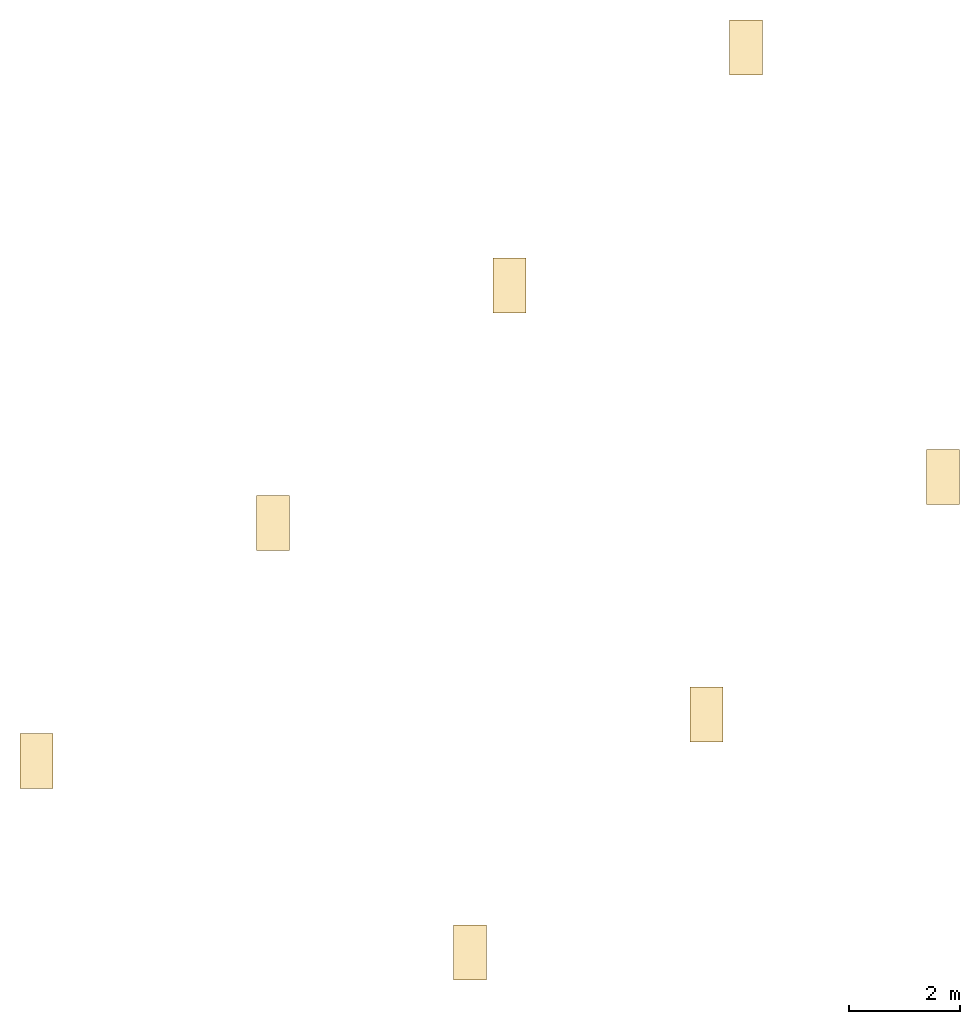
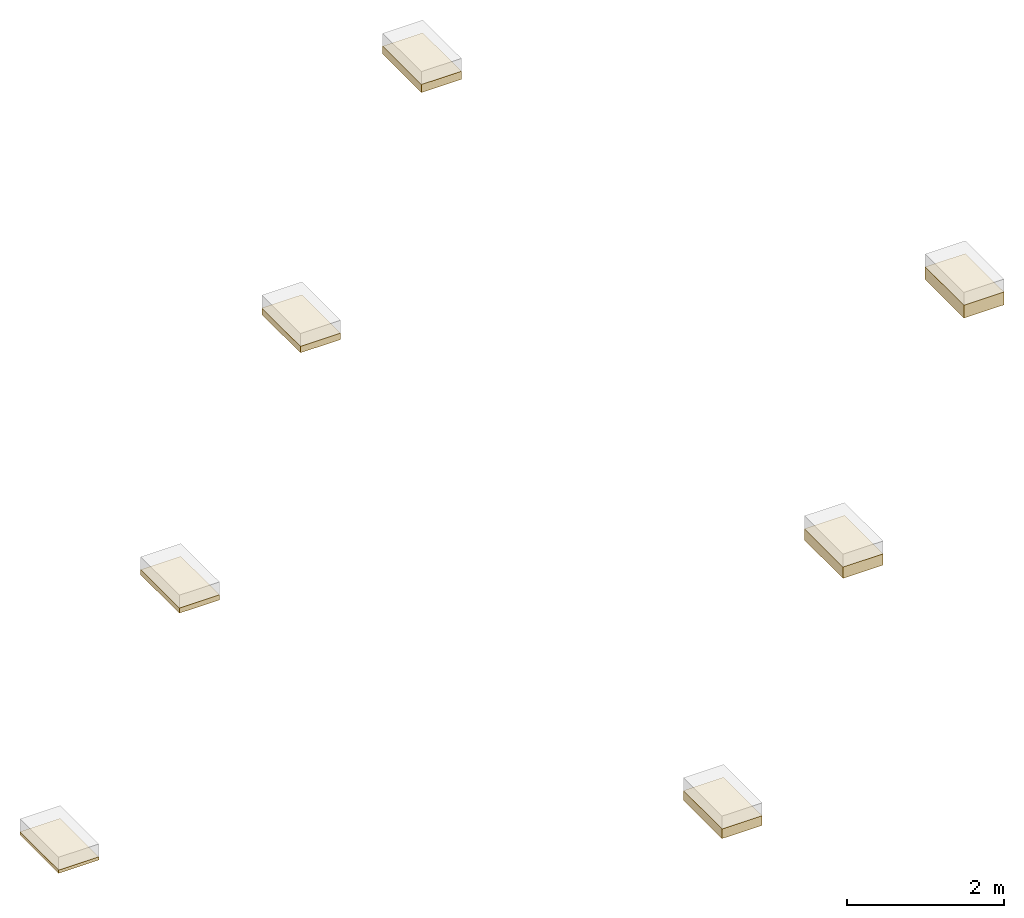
# One storey, part 2 of 2: 7 coverings.
"""IFC2X3 building model written with IfcOpenShell, lengths in millimetres."""

import ifcopenshell
import ifcopenshell.guid

model = None  # the IFC model being written
_history = None  # IfcOwnerHistory: only IFC2X3 demands one
_inside = {}  # id of a spatial element -> (the spatial element, [elements in it])
_under = {}  # id of a project, library or spatial element -> (it, [spatial elements below it])
_declared = {}  # id of a project -> (the project, [libraries it declares])
_typed = {}  # id of a type object -> (the type object, [elements of that type])
_made_of = {}  # id of a material, layer set ... -> (it, [elements and type objects made of it])


def new_model(schema):
    """Start an empty IFC model of exactly this schema.

    Asked for "IFC4X3", IfcOpenShell would pick the latest addendum, in which some entities
    have other attributes; the version numbers below select the first issue.
    IFC2X3 requires an IfcOwnerHistory on every rooted entity: one is made here for all.
    """
    global model, _history
    if schema == "IFC4X3":
        model = ifcopenshell.file(schema_version=(4, 3, 0, 0))
    else:
        model = ifcopenshell.file(schema=schema)
    _inside.clear()
    _under.clear()
    _declared.clear()
    _typed.clear()
    _made_of.clear()
    _history = None
    if model.schema == "IFC2X3":
        org = make("IfcOrganization", Name="unknown")
        user = make(
            "IfcPersonAndOrganization",
            ThePerson=make("IfcPerson", FamilyName="unknown"),
            TheOrganization=org,
        )
        app = make(
            "IfcApplication",
            ApplicationDeveloper=org,
            Version="unknown",
            ApplicationFullName="unknown",
            ApplicationIdentifier="unknown",
        )
        _history = make(
            "IfcOwnerHistory",
            OwningUser=user,
            OwningApplication=app,
            ChangeAction="ADDED",
            CreationDate=0,
        )
    return model


def make(cls, **values):
    """One entity of the class cls with the attributes given. An attribute that is None is left unset."""
    return model.create_entity(
        cls, **{name: value for name, value in values.items() if value is not None}
    )


def entity(cls, *values):
    """Any entity or typed value of the class cls, its attributes in the order of the schema. None: left unset."""
    e = model.create_entity(cls)
    for i, value in enumerate(values):
        if value is not None:
            e[i] = value
    return e


def rooted(cls, **values):
    """An entity with a GlobalId (a new one), such as an element, a storey or a relation."""
    return make(cls, GlobalId=ifcopenshell.guid.new(), OwnerHistory=_history, **values)


def si_unit(unit_type, name, prefix=None):
    """IfcSIUnit, for example si_unit("LENGTHUNIT", "METRE", prefix="MILLI")."""
    return make("IfcSIUnit", UnitType=unit_type, Prefix=prefix, Name=name)


def converted_unit(unit_type, name, factor, base, dimensions=None, offset=None):
    """IfcConversionBasedUnit, such as the inch: factor (a typed value) times the base unit."""
    return make(
        "IfcConversionBasedUnit"
        if offset is None
        else "IfcConversionBasedUnitWithOffset",
        ConversionOffset=offset,
        Dimensions=None
        if dimensions is None
        else entity("IfcDimensionalExponents", *dimensions),
        UnitType=unit_type,
        Name=name,
        ConversionFactor=make(
            "IfcMeasureWithUnit", ValueComponent=factor, UnitComponent=base
        ),
    )


def derived_unit(unit_type, elements):
    """IfcDerivedUnit: a product of units, each with its exponent."""
    return make(
        "IfcDerivedUnit",
        Elements=[
            make("IfcDerivedUnitElement", Unit=unit, Exponent=power)
            for unit, power in elements
        ],
        UnitType=unit_type,
    )


def assignment(units):
    """IfcUnitAssignment: the units of a project."""
    return None if units is None else make("IfcUnitAssignment", Units=units)


def point(xyz):
    """IfcCartesianPoint."""
    return None if xyz is None else make("IfcCartesianPoint", Coordinates=xyz)


def direction(xyz):
    """IfcDirection."""
    return None if xyz is None else make("IfcDirection", DirectionRatios=xyz)


def frame(location, z_axis=None, x_axis=None):
    """IfcAxis2Placement3D, a coordinate frame: its origin and axes. An axis left out is left unset."""
    return make(
        "IfcAxis2Placement3D",
        Location=point(location),
        Axis=direction(z_axis),
        RefDirection=direction(x_axis),
    )


def frame_2d(location, x_axis=None):
    """IfcAxis2Placement2D, a coordinate frame in the plane: its origin and x axis."""
    return make(
        "IfcAxis2Placement2D", Location=point(location), RefDirection=direction(x_axis)
    )


def origin():
    """The frame at (0, 0, 0) with its axes left unset."""
    return frame((0.0, 0.0, 0.0))


def origin_2d_with_axis():
    """The frame at (0, 0) in the plane with the x axis (1, 0) written out."""
    return frame_2d((0.0, 0.0), x_axis=(1.0, 0.0))


def place(relative_to, where):
    """IfcLocalPlacement: puts the frame where relative to a parent placement (None: the world)."""
    return make(
        "IfcLocalPlacement", PlacementRelTo=relative_to, RelativePlacement=where
    )


def context(
    kind, dimensions, precision=None, world=None, true_north=None, identifier=None
):
    """IfcGeometricRepresentationContext, for example the 3D "Model" context."""
    return make(
        "IfcGeometricRepresentationContext",
        ContextIdentifier=identifier,
        ContextType=kind,
        CoordinateSpaceDimension=dimensions,
        Precision=precision,
        WorldCoordinateSystem=world,
        TrueNorth=true_north,
    )


def subcontext(parent, identifier, kind, view, scale=None):
    """IfcGeometricRepresentationSubContext, for example "Body" below "Model"."""
    return make(
        "IfcGeometricRepresentationSubContext",
        ContextIdentifier=identifier,
        ContextType=kind,
        ParentContext=parent,
        TargetScale=scale,
        TargetView=view,
    )


def project(units=None, contexts=None):
    """IfcProject with its units and contexts."""
    return rooted(
        "IfcProject",
        Name="project",
        RepresentationContexts=contexts,
        UnitsInContext=assignment(units),
    )


def spatial(cls, under=None, at=None, **own):
    """A site, building, storey or space (cls), placed at a placement, below another one or the project."""
    s = rooted(cls, ObjectPlacement=at, **own)
    if under is not None:
        _under.setdefault(under.id(), (under, []))[1].append(s)
    return s


def profile(cls, at=None, kind="AREA", **sizes):
    """A parametric profile (cls). Its sizes go by their IFC names, for example OverallWidth=200.0."""
    return make(cls, ProfileType=kind, Position=at, **sizes)


def rectangle(**sizes):
    """IfcRectangleProfileDef."""
    return profile("IfcRectangleProfileDef", **sizes)


def extrude(swept, where, along, depth):
    """IfcExtrudedAreaSolid: the profile swept, set in the frame where, extruded along a direction by depth."""
    return make(
        "IfcExtrudedAreaSolid",
        SweptArea=swept,
        Position=where,
        ExtrudedDirection=direction(along),
        Depth=depth,
    )


def shape(context_of_items, identifier, shape_type, items):
    """IfcShapeRepresentation: the items that make up one representation, for example the "Body"."""
    return make(
        "IfcShapeRepresentation",
        ContextOfItems=context_of_items,
        RepresentationIdentifier=identifier,
        RepresentationType=shape_type,
        Items=items,
    )


def material(Name=None, Category=None):
    """IfcMaterial."""
    return make("IfcMaterial", Name=Name, Category=Category)


def layer(
    of_material, thickness, ventilated=None, Name=None, Category=None, Priority=None
):
    """IfcMaterialLayer: one layer of a wall or slab, of a material (None: an air gap)."""
    return make(
        "IfcMaterialLayer",
        Material=of_material,
        LayerThickness=thickness,
        IsVentilated=ventilated,
        Name=Name,
        Category=Category,
        Priority=Priority,
    )


def layer_set(layers, Name=None):
    """IfcMaterialLayerSet."""
    return make("IfcMaterialLayerSet", MaterialLayers=layers, LayerSetName=Name)


def layer_usage(for_layer_set, set_direction, sense, offset, extent=None):
    """IfcMaterialLayerSetUsage: how a layer set lies in its element."""
    return make(
        "IfcMaterialLayerSetUsage",
        ForLayerSet=for_layer_set,
        LayerSetDirection=set_direction,
        DirectionSense=sense,
        OffsetFromReferenceLine=offset,
        ReferenceExtent=extent,
    )


def made_of(thing, what):
    """Note that an element or type object is made of a material, layer set ...; save() writes the relation."""
    if what is not None:
        _made_of.setdefault(what.id(), (what, []))[1].append(thing)
    return thing


def type_object(cls, material=None, **own):
    """A type object (cls), such as IfcWallType, which elements share."""
    return made_of(rooted(cls, **own), material)


def element(
    cls,
    number,
    at=None,
    inside=None,
    cuts=None,
    type_object=None,
    material=None,
    context=None,
    identifier="Body",
    shape_type=None,
    held_by="IfcProductDefinitionShape",
    body=None,
    shapes=None,
    **own,
):
    """One element of the class cls, such as IfcWall. Its Tag is "e" and its number.

    at: its placement. inside: the storey or other place that contains it. cuts: it is an
    opening in that element (IfcRelVoidsElement). A single representation is given by context,
    identifier, shape_type and body (its items); several are given by shapes. held_by: the class
    of the entity that holds the representations. save() writes the other relations.
    """
    e = rooted(cls, Tag="e%d" % number, ObjectPlacement=at, **own)
    if body is not None:
        shapes = [shape(context, identifier, shape_type, body)]
    if shapes is not None:
        e.Representation = make(held_by, Representations=shapes)
    if inside is not None:
        _inside.setdefault(inside.id(), (inside, []))[1].append(e)
    if cuts is not None:
        rooted(
            "IfcRelVoidsElement", RelatingBuildingElement=cuts, RelatedOpeningElement=e
        )
    if type_object is not None:
        _typed.setdefault(type_object.id(), (type_object, []))[1].append(e)
    return made_of(e, material)


def aggregate(whole, parts):
    """IfcRelAggregates: a whole, such as a stair, and the parts it consists of."""
    return rooted("IfcRelAggregates", RelatingObject=whole, RelatedObjects=parts)


def save(model, path):
    """Write the relations noted so far, then the file.

    IfcRelAggregates (storeys below a building ...), IfcRelContainedInSpatialStructure (elements
    in a storey), IfcRelDefinesByType, IfcRelAssociatesMaterial and IfcRelDeclares: one each for
    every whole, place, type object, material and project.
    """
    for whole, parts in _under.values():
        aggregate(whole, parts)
    for where, things in _inside.values():
        rooted(
            "IfcRelContainedInSpatialStructure",
            RelatedElements=things,
            RelatingStructure=where,
        )
    for kind, things in _typed.values():
        rooted("IfcRelDefinesByType", RelatedObjects=things, RelatingType=kind)
    for what, things in _made_of.values():
        rooted("IfcRelAssociatesMaterial", RelatedObjects=things, RelatingMaterial=what)
    for by, libraries in _declared.values():
        rooted("IfcRelDeclares", RelatingContext=by, RelatedDefinitions=libraries)
    model.write(path)


model = new_model("IFC2X3")

# Units and contexts
model_context = context("Model", 3, precision=0.01, world=origin(), true_north=direction((6.12303176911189e-17, 1.0)))
context_of_model = context(None, 3, precision=0.01, world=origin(), true_north=direction((6.12303176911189e-17, 1.0)))
body_context = subcontext(model_context, "Body", "Model", "MODEL_VIEW")
ifc_project = project(units=[si_unit("LENGTHUNIT", "METRE", prefix="MILLI"), si_unit("AREAUNIT", "SQUARE_METRE"), si_unit("VOLUMEUNIT", "CUBIC_METRE"), converted_unit("PLANEANGLEUNIT", "DEGREE", entity("IfcRatioMeasure", 0.0174532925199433), si_unit("PLANEANGLEUNIT", "RADIAN"), dimensions=[0, 0, 0, 0, 0, 0, 0]), si_unit("MASSUNIT", "GRAM", prefix="KILO"), derived_unit("MASSDENSITYUNIT", [(si_unit("MASSUNIT", "GRAM", prefix="KILO"), 1), (si_unit("LENGTHUNIT", "METRE"), -3)]), derived_unit("MOMENTOFINERTIAUNIT", [(si_unit("LENGTHUNIT", "METRE"), 4)]), si_unit("TIMEUNIT", "SECOND"), si_unit("FREQUENCYUNIT", "HERTZ"), si_unit("THERMODYNAMICTEMPERATUREUNIT", "DEGREE_CELSIUS"), derived_unit("THERMALTRANSMITTANCEUNIT", [(si_unit("MASSUNIT", "GRAM", prefix="KILO"), 1), (si_unit("THERMODYNAMICTEMPERATUREUNIT", "KELVIN"), -1), (si_unit("TIMEUNIT", "SECOND"), -3)]), derived_unit("VOLUMETRICFLOWRATEUNIT", [(si_unit("LENGTHUNIT", "METRE"), 3), (si_unit("TIMEUNIT", "SECOND"), -1)]), si_unit("ELECTRICCURRENTUNIT", "AMPERE"), si_unit("ELECTRICVOLTAGEUNIT", "VOLT"), si_unit("POWERUNIT", "WATT"), si_unit("FORCEUNIT", "NEWTON", prefix="KILO"), si_unit("ILLUMINANCEUNIT", "LUX"), si_unit("LUMINOUSFLUXUNIT", "LUMEN"), si_unit("LUMINOUSINTENSITYUNIT", "CANDELA"), derived_unit("USERDEFINED", [(si_unit("MASSUNIT", "GRAM", prefix="KILO"), -1), (si_unit("LENGTHUNIT", "METRE"), -2), (si_unit("TIMEUNIT", "SECOND"), 3), (si_unit("LUMINOUSFLUXUNIT", "LUMEN"), 1)]), derived_unit("LINEARVELOCITYUNIT", [(si_unit("LENGTHUNIT", "METRE"), 1), (si_unit("TIMEUNIT", "SECOND"), -1)]), si_unit("PRESSUREUNIT", "PASCAL"), derived_unit("USERDEFINED", [(si_unit("LENGTHUNIT", "METRE"), -2), (si_unit("MASSUNIT", "GRAM", prefix="KILO"), 1), (si_unit("TIMEUNIT", "SECOND"), -2)]), derived_unit("LINEARFORCEUNIT", [(si_unit("MASSUNIT", "GRAM", prefix="KILO"), 1), (si_unit("LENGTHUNIT", "METRE"), 1), (si_unit("TIMEUNIT", "SECOND"), -2), (si_unit("LENGTHUNIT", "METRE"), -1)]), derived_unit("PLANARFORCEUNIT", [(si_unit("MASSUNIT", "GRAM", prefix="KILO"), 1), (si_unit("LENGTHUNIT", "METRE"), 1), (si_unit("TIMEUNIT", "SECOND"), -2), (si_unit("LENGTHUNIT", "METRE"), -2)])], contexts=[model_context, context_of_model])

# Site, building, storey
site_placement = place(None, origin())
site = spatial("IfcSite", under=ifc_project, at=site_placement, Name="Default", CompositionType="ELEMENT")
building_placement = place(site_placement, origin())
building = spatial("IfcBuilding", under=site, at=building_placement, CompositionType="ELEMENT")
storey_placement = place(building_placement, frame((0.0, 0.0, 985.0)))
storey = spatial("IfcBuildingStorey", under=building, at=storey_placement, Name="01 eerste verdieping", CompositionType="ELEMENT", Elevation=985.0)

# Coverings
ifc_material_1 = material(Name="Heraklith® I Heratekta - EPS60-SE")
ifc_layer_1 = layer(ifc_material_1, 40.0)
ifc_material_2 = material(Name="Heraklith® | Heratekta - Houtwollaag - 985x590mm")
ifc_layer_2 = layer(ifc_material_2, 10.0)
ifc_layer_set_1 = layer_set([ifc_layer_1, ifc_layer_2], Name="Compound Ceiling:NLRS_45_CEI_Heraklith - Heratekta+ 050x590x985mm")
ifc_layer_usage_1 = layer_usage(ifc_layer_set_1, "AXIS3", "POSITIVE", 0.0)
covering_type_1 = type_object("IfcCoveringType", Name="Compound Ceiling:NLRS_45_CEI_Heraklith - Heratekta+ 050x590x985mm", PredefinedType="CEILING")
covering_1_placement = place(storey_placement, origin())
element("IfcCovering", 1, at=covering_1_placement, inside=storey, type_object=covering_type_1, material=ifc_layer_usage_1, Name="Compound Ceiling:NLRS_45_CEI_Heraklith - Heratekta+ 050x590x985mm", ObjectType="Compound Ceiling:NLRS_45_CEI_Heraklith - Heratekta+ 050x590x985mm", PredefinedType="CEILING", context=body_context, shape_type="SweptSolid", body=[
    extrude(rectangle(XDim=985.0, YDim=590.0, at=origin_2d_with_axis()), frame((295.0, 2027.49999999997, -50.0), z_axis=(0.0, 0.0, 1.0), x_axis=(0.0, 1.0, 0.0)), (0.0, 0.0, 1.0), 50.0),
])
ifc_layer_3 = layer(ifc_material_1, 70.0)
ifc_layer_4 = layer(ifc_material_2, 10.0)
ifc_layer_set_2 = layer_set([ifc_layer_3, ifc_layer_4], Name="Compound Ceiling:NLRS_45_CEI_Heraklith - Heratekta+ 080x590x985mm")
ifc_layer_usage_2 = layer_usage(ifc_layer_set_2, "AXIS3", "POSITIVE", 0.0)
covering_type_2 = type_object("IfcCoveringType", Name="Compound Ceiling:NLRS_45_CEI_Heraklith - Heratekta+ 080x590x985mm", PredefinedType="CEILING")
covering_2_placement = place(storey_placement, origin())
element("IfcCovering", 2, at=covering_2_placement, inside=storey, type_object=covering_type_2, material=ifc_layer_usage_2, Name="Compound Ceiling:NLRS_45_CEI_Heraklith - Heratekta+ 080x590x985mm", ObjectType="Compound Ceiling:NLRS_45_CEI_Heraklith - Heratekta+ 080x590x985mm", PredefinedType="CEILING", context=body_context, shape_type="SweptSolid", body=[
    extrude(rectangle(XDim=984.999999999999, YDim=590.0, at=origin_2d_with_axis()), frame((4537.64068711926, 6300.14068711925, -80.0), z_axis=(0.0, 0.0, 1.0), x_axis=(0.0, 1.0, 0.0)), (0.0, 0.0, 1.0), 80.0),
])
ifc_layer_5 = layer(ifc_material_1, 90.0)
ifc_layer_6 = layer(ifc_material_2, 10.0)
ifc_layer_set_3 = layer_set([ifc_layer_5, ifc_layer_6], Name="Compound Ceiling:NLRS_45_CEI_Heraklith - Heratekta+ 100x590x985mm")
ifc_layer_usage_3 = layer_usage(ifc_layer_set_3, "AXIS3", "POSITIVE", 0.0)
covering_type_3 = type_object("IfcCoveringType", Name="Compound Ceiling:NLRS_45_CEI_Heraklith - Heratekta+ 100x590x985mm", PredefinedType="CEILING")
covering_3_placement = place(storey_placement, origin())
element("IfcCovering", 3, at=covering_3_placement, inside=storey, type_object=covering_type_3, material=ifc_layer_usage_3, Name="Compound Ceiling:NLRS_45_CEI_Heraklith - Heratekta+ 100x590x985mm", ObjectType="Compound Ceiling:NLRS_45_CEI_Heraklith - Heratekta+ 100x590x985mm", PredefinedType="CEILING", context=body_context, shape_type="SweptSolid", body=[
    extrude(rectangle(XDim=984.999999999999, YDim=590.0, at=frame_2d((-1.10844666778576e-12, 0.0), x_axis=(1.0, 0.0))), frame((8780.28137423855, 10562.7813742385, -100.0), z_axis=(0.0, 0.0, 1.0), x_axis=(0.0, 1.0, 0.0)), (0.0, 0.0, 1.0), 100.0),
])
ifc_layer_7 = layer(ifc_material_1, 115.0)
ifc_layer_8 = layer(ifc_material_2, 10.0)
ifc_layer_set_4 = layer_set([ifc_layer_7, ifc_layer_8], Name="Compound Ceiling:NLRS_45_CEI_Heraklith - Heratekta+ 125x590x985mm")
ifc_layer_usage_4 = layer_usage(ifc_layer_set_4, "AXIS3", "POSITIVE", 0.0)
covering_type_4 = type_object("IfcCoveringType", Name="Compound Ceiling:NLRS_45_CEI_Heraklith - Heratekta+ 125x590x985mm", PredefinedType="CEILING")
covering_4_placement = place(storey_placement, origin())
element("IfcCovering", 4, at=covering_4_placement, inside=storey, type_object=covering_type_4, material=ifc_layer_usage_4, Name="Compound Ceiling:NLRS_45_CEI_Heraklith - Heratekta+ 125x590x985mm", ObjectType="Compound Ceiling:NLRS_45_CEI_Heraklith - Heratekta+ 125x590x985mm", PredefinedType="CEILING", context=body_context, shape_type="SweptSolid", body=[
    extrude(rectangle(XDim=984.999999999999, YDim=590.0, at=frame_2d((-1.10844666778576e-12, 0.0), x_axis=(1.0, 0.0))), frame((13022.9220613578, 14830.4220613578, -125.0), z_axis=(0.0, 0.0, 1.0), x_axis=(0.0, 1.0, 0.0)), (0.0, 0.0, 1.0), 125.0),
])
ifc_layer_9 = layer(ifc_material_1, 140.0)
ifc_layer_10 = layer(ifc_material_2, 10.0)
ifc_layer_set_5 = layer_set([ifc_layer_9, ifc_layer_10], Name="Compound Ceiling:NLRS_45_CEI_Heraklith - Heratekta+ 150x985x590mm")
ifc_layer_usage_5 = layer_usage(ifc_layer_set_5, "AXIS3", "POSITIVE", 0.0)
covering_type_5 = type_object("IfcCoveringType", Name="Compound Ceiling:NLRS_45_CEI_Heraklith - Heratekta+ 150x985x590mm", PredefinedType="CEILING")
covering_5_placement = place(storey_placement, origin())
element("IfcCovering", 5, at=covering_5_placement, inside=storey, type_object=covering_type_5, material=ifc_layer_usage_5, Name="Compound Ceiling:NLRS_45_CEI_Heraklith - Heratekta+ 150x985x590mm", ObjectType="Compound Ceiling:NLRS_45_CEI_Heraklith - Heratekta+ 150x985x590mm", PredefinedType="CEILING", context=body_context, shape_type="SweptSolid", body=[
    extrude(rectangle(XDim=985.0, YDim=590.0, at=origin_2d_with_axis()), frame((8073.17459305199, -1408.03390593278, -150.0), z_axis=(0.0, 0.0, 1.0), x_axis=(0.0, 1.0, 0.0)), (0.0, 0.0, 1.0), 150.0),
])
ifc_layer_11 = layer(ifc_material_1, 165.0)
ifc_layer_12 = layer(ifc_material_2, 10.0)
ifc_layer_set_6 = layer_set([ifc_layer_11, ifc_layer_12], Name="Compound Ceiling:NLRS_45_CEI_Heraklith - Heratekta+ 175x985x590mm")
ifc_layer_usage_6 = layer_usage(ifc_layer_set_6, "AXIS3", "POSITIVE", 0.0)
covering_type_6 = type_object("IfcCoveringType", Name="Compound Ceiling:NLRS_45_CEI_Heraklith - Heratekta+ 175x985x590mm", PredefinedType="CEILING")
covering_6_placement = place(storey_placement, origin())
element("IfcCovering", 6, at=covering_6_placement, inside=storey, type_object=covering_type_6, material=ifc_layer_usage_6, Name="Compound Ceiling:NLRS_45_CEI_Heraklith - Heratekta+ 175x985x590mm", ObjectType="Compound Ceiling:NLRS_45_CEI_Heraklith - Heratekta+ 175x985x590mm", PredefinedType="CEILING", context=body_context, shape_type="SweptSolid", body=[
    extrude(rectangle(XDim=985.0, YDim=589.999999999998, at=frame_2d((2.8421709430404e-13, -1.08002495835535e-12), x_axis=(1.0, 0.0))), frame((12315.8152801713, 2859.6067811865, -175.0), z_axis=(0.0, 0.0, 1.0), x_axis=(0.0, 1.0, 0.0)), (0.0, 0.0, 1.0), 175.0),
])
ifc_layer_13 = layer(ifc_material_1, 190.0)
ifc_layer_14 = layer(ifc_material_2, 10.0)
ifc_layer_set_7 = layer_set([ifc_layer_13, ifc_layer_14], Name="Compound Ceiling:NLRS_45_CEI_Heraklith - Heratekta+ 200x590x985mm")
ifc_layer_usage_7 = layer_usage(ifc_layer_set_7, "AXIS3", "POSITIVE", 0.0)
covering_type_7 = type_object("IfcCoveringType", Name="Compound Ceiling:NLRS_45_CEI_Heraklith - Heratekta+ 200x590x985mm", PredefinedType="CEILING")
covering_7_placement = place(storey_placement, origin())
element("IfcCovering", 7, at=covering_7_placement, inside=storey, type_object=covering_type_7, material=ifc_layer_usage_7, Name="Compound Ceiling:NLRS_45_CEI_Heraklith - Heratekta+ 200x590x985mm", ObjectType="Compound Ceiling:NLRS_45_CEI_Heraklith - Heratekta+ 200x590x985mm", PredefinedType="CEILING", context=body_context, shape_type="SweptSolid", body=[
    extrude(rectangle(XDim=984.999999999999, YDim=589.999999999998, at=frame_2d((0.0, -1.08002495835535e-12), x_axis=(1.0, 0.0))), frame((16558.4559672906, 7127.24746830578, -200.0), z_axis=(0.0, 0.0, 1.0), x_axis=(0.0, 1.0, 0.0)), (0.0, 0.0, 1.0), 200.0),
])

save(model, "model.ifc")
